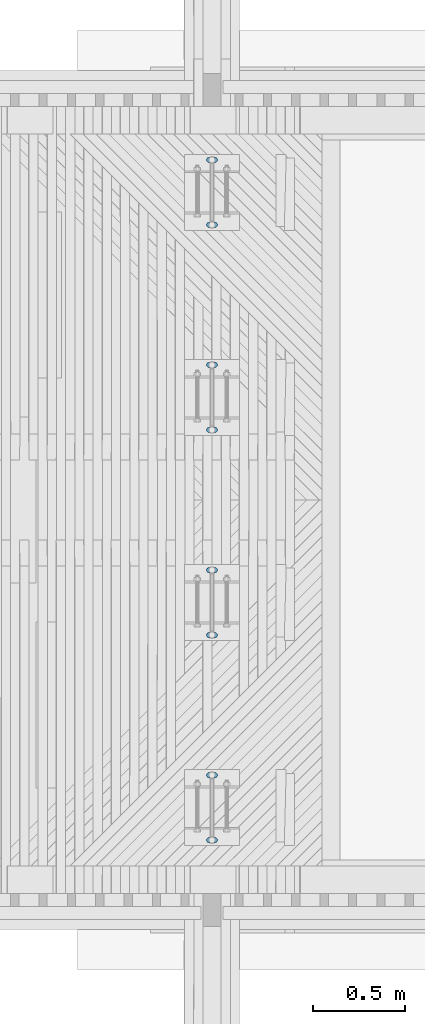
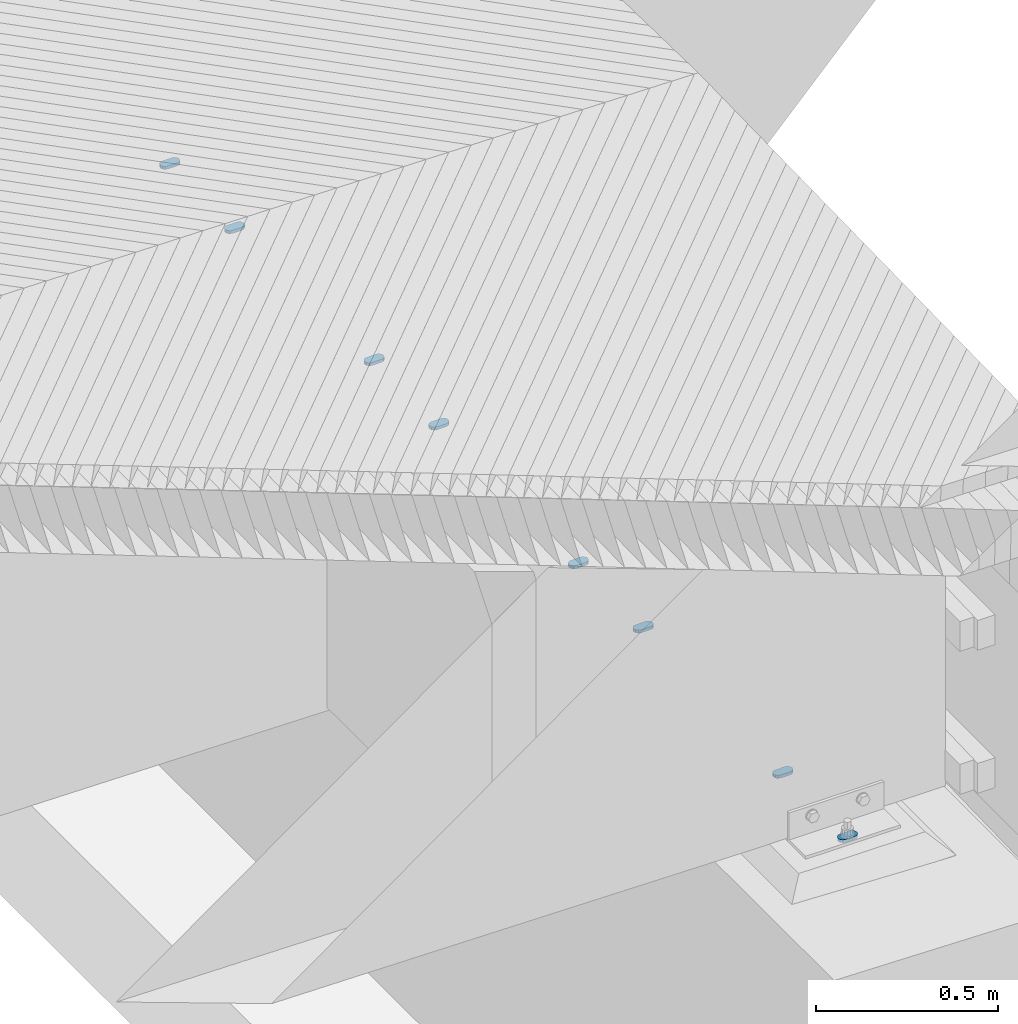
# One storey, part 5 of 53: 8 mechanical fasteners.
"""IFC2X3 building model written with IfcOpenShell, lengths in millimetres."""

from ifc_helpers import new_model, si_unit, frame, origin_with_axes, place, context, subcontext, project, spatial, faceted_brep, source, transform, mapped, material, type_object, element, save


model = new_model("IFC2X3")

# Units and contexts
model_context = context("Model", 3, precision=1e-05, world=origin_with_axes())
body_context = subcontext(model_context, "Body", "Model", "MODEL_VIEW")
ifc_project = project(units=[si_unit("LENGTHUNIT", "METRE", prefix="MILLI"), si_unit("AREAUNIT", "SQUARE_METRE"), si_unit("VOLUMEUNIT", "CUBIC_METRE"), si_unit("MASSUNIT", "GRAM", prefix="KILO"), si_unit("TIMEUNIT", "SECOND"), si_unit("PLANEANGLEUNIT", "RADIAN"), si_unit("SOLIDANGLEUNIT", "STERADIAN"), si_unit("THERMODYNAMICTEMPERATUREUNIT", "DEGREE_CELSIUS"), si_unit("LUMINOUSINTENSITYUNIT", "LUMEN")], contexts=[model_context])

# Site, building, storey
site_placement = place(None, origin_with_axes())
site = spatial("IfcSite", under=ifc_project, at=site_placement, Name="Undefined", CompositionType="ELEMENT")
building_placement = place(site_placement, origin_with_axes())
building = spatial("IfcBuilding", under=site, at=building_placement, Name="Undefined", CompositionType="ELEMENT")
storey_placement = place(building_placement, origin_with_axes())
storey = spatial("IfcBuildingStorey", under=building, at=storey_placement, Name="Undefined", CompositionType="ELEMENT", Elevation=0.0)

# Mechanical fasteners
ifc_material = material(Name="Undefined")
mechanical_fastener_type = type_object("IfcMechanicalFastenerType", Name="Bolt assembly")
shared_shape = source(origin_with_axes(), body_context, "Body", "Brep", [
    faceted_brep([(30.0, -9.99999999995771, 0.0), (28.8581929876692, -9.99999999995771, 5.7402514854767), (25.6066017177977, -9.99999999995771, 10.6066017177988), (20.7402514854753, -9.99999999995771, 13.8581929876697), (-15.0000000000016, -9.99999999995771, 15.0), (-22.5000000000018, -9.99999999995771, 12.9903810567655), (-27.9903810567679, -9.99999999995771, 7.49999999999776), (-30.0, -9.99999999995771, -3.10900794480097e-12), (-27.9903810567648, -9.99999999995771, -7.50000000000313), (-22.4999999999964, -9.99999999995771, -12.9903810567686), (-14.9999999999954, -9.99999999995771, -15.0), (15.0000000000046, -9.99999999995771, -15.0), (22.5000000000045, -9.99999999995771, -12.990381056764), (27.9903810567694, -9.99999999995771, -7.49999999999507), (30.0, 0.100000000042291, 0.0), (27.9903810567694, 0.100000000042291, -7.49999999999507), (22.5000000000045, 0.100000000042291, -12.990381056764), (15.0000000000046, 0.100000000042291, -15.0), (-14.9999999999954, 0.100000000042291, -15.0), (-22.4999999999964, 0.100000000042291, -12.9903810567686), (-27.9903810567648, 0.100000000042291, -7.50000000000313), (-30.0, 0.100000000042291, -3.10900794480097e-12), (-27.9903810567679, 0.100000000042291, 7.49999999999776), (-22.5000000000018, 0.100000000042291, 12.9903810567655), (-15.0000000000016, 0.100000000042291, 15.0), (20.7402514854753, 0.100000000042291, 13.8581929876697), (25.6066017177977, 0.100000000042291, 10.6066017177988), (28.8581929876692, 0.100000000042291, 5.7402514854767)], [[[0, 1, 2, 3, 4, 5, 6, 7, 8, 9, 10, 11, 12, 13]], [[14, 15, 16, 17, 18, 19, 20, 21, 22, 23, 24, 25, 26, 27]], [[0, 14, 27, 1]], [[1, 27, 26, 2]], [[2, 26, 25, 3]], [[3, 25, 24, 4]], [[4, 24, 23, 5]], [[5, 23, 22, 6]], [[6, 22, 21, 7]], [[7, 21, 20, 8]], [[8, 20, 19, 9]], [[9, 19, 18, 10]], [[10, 18, 17, 11]], [[11, 17, 16, 12]], [[12, 16, 15, 13]], [[13, 15, 14, 0]]]),
])
for number, where, z_axis, x_axis, name in (
    (1, (16000.0, 42747.5000000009, 2007.32999999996), (0.0, 1.0, 0.0), (-1.0, 0.0, 0.0), "Bolt assembly"),
    (2, (16000.0, 43102.5000000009, 2007.32999999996), (0.0, 1.0, 0.0), (-1.0, 0.0, 0.0), "Bolt assembly"),
    (3, (16000.0, 43867.5000000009, 1985.32999999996), (0.0, 1.0, 0.0), (-1.0, 0.0, 0.0), "Bolt assembly"),
    (4, (16000.0, 44222.5000000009, 1985.32999999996), (0.0, 1.0, 0.0), (-1.0, 0.0, 0.0), "Bolt assembly"),
    (5, (16000.0, 41982.5, 2007.32999999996), (0.0, 1.0, 0.0), (-1.0, 0.0, 0.0), "Bolt assembly"),
    (6, (16000.0, 41627.5, 2007.32999999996), (0.0, 1.0, 0.0), (-1.0, 0.0, 0.0), "Bolt assembly"),
    (7, (16000.0, 40862.5, 1985.32999999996), (0.0, 1.0, 0.0), (-1.0, 0.0, 0.0), "Bolt assembly"),
    (8, (16000.0, 40507.5, 1985.32999999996), (0.0, 1.0, 0.0), (-1.0, 0.0, 0.0), "Bolt assembly"),
):
    element("IfcMechanicalFastener", number, at=place(storey_placement, frame(where, z_axis=z_axis, x_axis=x_axis)), inside=storey, type_object=mechanical_fastener_type, material=ifc_material, Name=name, NominalDiameter=20.0, NominalLength=30.0, context=body_context, shape_type="MappedRepresentation", body=[
        mapped(shared_shape, transform((0.0, 0.0, 0.0))),
    ])

save(model, "model.ifc")
